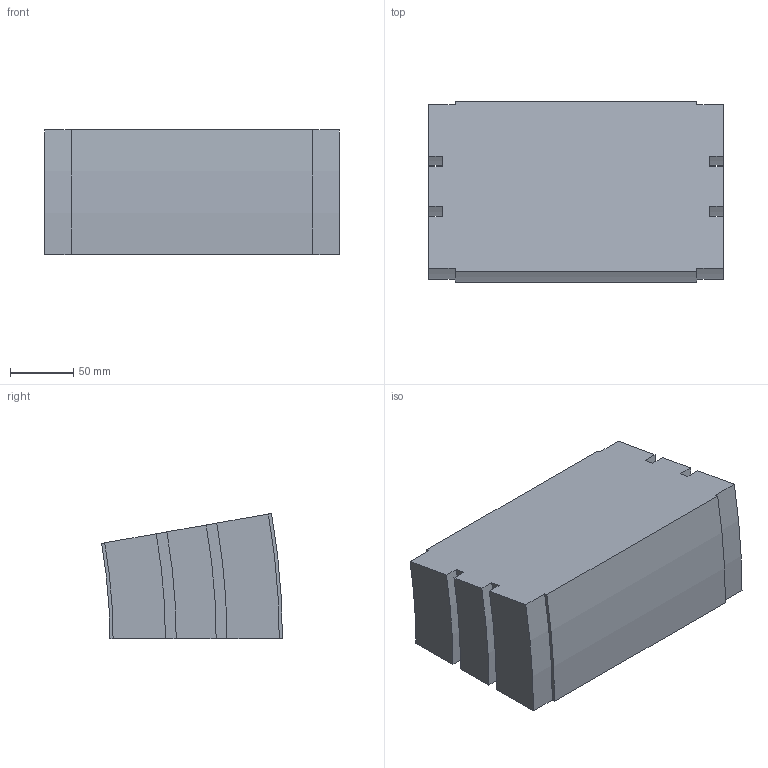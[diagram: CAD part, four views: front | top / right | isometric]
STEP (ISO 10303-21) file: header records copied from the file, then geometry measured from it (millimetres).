
FILE_DESCRIPTION (( 'STEP AP214' ), '1' );
FILE_NAME ('02.150V10.230.N FS-230-MTC-150 Bocht verticaal 10°.STEP', '2013-03-29T12:50:11', ( 'Gebruiker' ), ( '' ), 'SwSTEP 2.0', 'SolidWorks 2012', '' );
FILE_SCHEMA (( 'AUTOMOTIVE_DESIGN' ));
Length unit declared in the file: millimetre
Products named in the file (1): 02.150V10.230.N FS-230-MTC-150 Bocht verticaal 10°
Bounding box: 232.5 x 142.56 x 98.63 mm (x, y, z)
Volume: 2708401.9 mm3; surface area: 134066.8 mm2
Topology: 1 solids, 1 shells, 30 faces, 84 edges, 56 vertices
Faces by surface type: plane 16, cylinder 14
Entity records: 1010 total; most frequent: DIRECTION 174, CARTESIAN_POINT 171, ORIENTED_EDGE 168, EDGE_CURVE 84, AXIS2_PLACEMENT_3D 59, LINE 56, VECTOR 56, VERTEX_POINT 56
